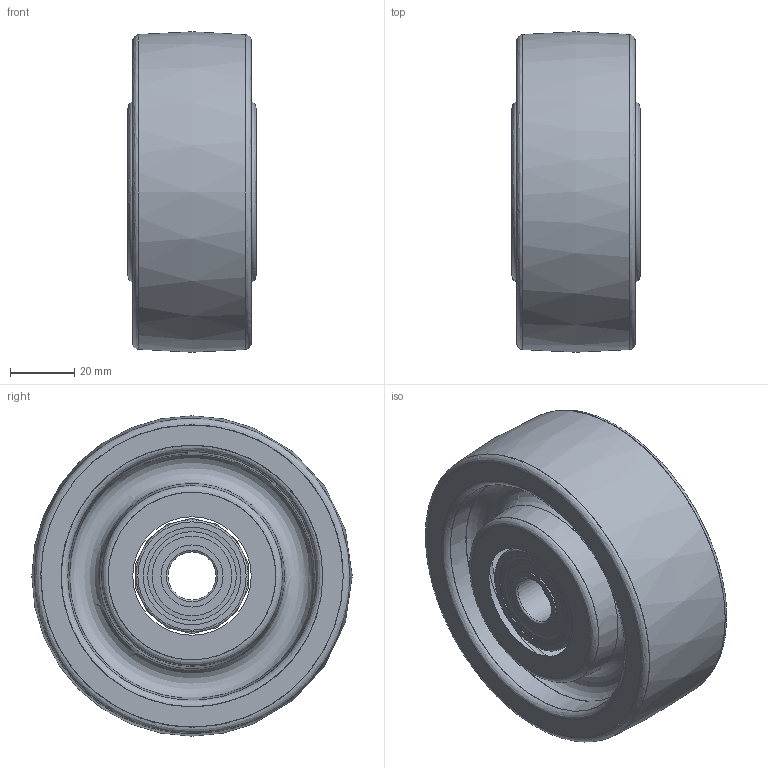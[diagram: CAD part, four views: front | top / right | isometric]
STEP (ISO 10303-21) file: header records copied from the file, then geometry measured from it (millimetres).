
FILE_DESCRIPTION(('STEP AP214'),'2;1');
FILE_NAME('18005-CC.stp','2010-04-29T10:55:17',(''),(''),'2009.1.108','THINKDESIGN','');
FILE_SCHEMA(('AUTOMOTIVE_DESIGN'));
Length unit declared in the file: millimetre
Products named in the file (15): P4171; SKF6202RSL1050190202PART1; SKF6202RSL1050190202PART2; SKF6202RSL1050190202PART3; SKF6202RSL1050190202PART4; comp7; comp6; comp5; comp4; comp3; comp2; comp1; SKF-6202_Z; P227; top
Assembly tree (15 placements, depth 4):
  top
    P4171
    P227  x2
      SKF-6202_Z
        SKF6202RSL1050190202PART1
        SKF6202RSL1050190202PART2
        SKF6202RSL1050190202PART3
        SKF6202RSL1050190202PART4
        comp7
        comp6
        comp5
        comp4
        comp3
        comp2
        comp1
Bounding box: 40 x 100 x 100 mm (x, y, z)
Volume: 10925 mm3; surface area: 47028.8 mm2
Topology: 23 solids, 23 shells, 114 faces, 346 edges, 306 vertices
Faces by surface type: bspline 63, cylinder 27, plane 24
Full cylindrical faces by diameter (mm): 15 x2, 16 x1, 19.4 x6, 20 x1, 21.7 x4, 29.2 x4, 30 x1, 30.4 x6, 35 x2
Entity records: 14388 total; most frequent: CARTESIAN_POINT 11306, DIRECTION 453, ORIENTED_EDGE 242, AXIS2_PLACEMENT_3D 194, STYLED_ITEM 164, EDGE_CURVE 121, CIRCLE 118, PRESENTATION_STYLE_ASSIGNMENT 100
